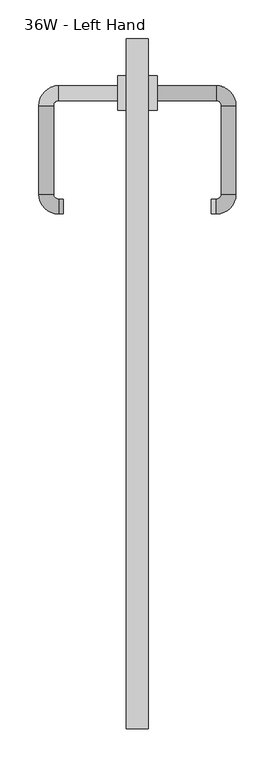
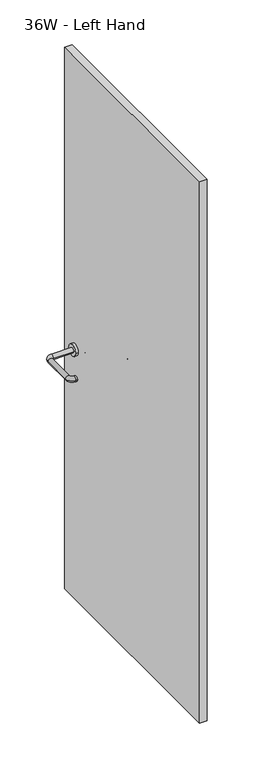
"""IFC4 building model written with IfcOpenShell, lengths in millimetres: furniture geometry, Steelcase - Montage - Door - Hinged Door : 36W - Left Hand."""

from ifc_helpers import new_model, si_unit, point, frame, frame_2d, origin, origin_with_axes, place, context, project, spatial, polyline, circle_curve, ellipse_curve, trimmed, segment, composite_curve, outline, extrude, source, transform, mapped, element, save
from ifc_brep_helpers import plane_surface, cylinder_surface, revolved_surface, advanced_brep


def furniture_36w_left_hand_b3355ba9(model_context):
    return source(origin(), model_context, "Body", "SolidModel", [
        extrude(outline(polyline([(41.2750004, 927.1000015), (41.2750004, 38.1000015), (12.7000004, 38.1000015), (12.7000004, 927.1000015), (41.2750004, 927.1000015)])), origin_with_axes(), (0.0, 0.0, 1.0), 2171.7),
        advanced_brep(
        [(52.3875004, 847.7250017, 1003.3), (52.3875004, 866.7750017, 1003.3), (128.5875062, 847.7250017, 1003.3), (128.5875062, 866.7750017, 1003.3), (153.9875009, 841.375007, 1003.3), (134.9375009, 841.375007, 1003.3), (134.9375009, 727.0749954, 1003.3), (153.9875009, 727.0749954, 1003.3), (128.5875062, 701.6750007, 1003.3), (128.5875062, 720.7250007, 1003.3), (122.2375004, 720.7250007, 1003.3), (122.2375004, 701.6750007, 1003.3)],
        [
            (0, 1, circle_curve(frame((52.3875004, 857.2500017, 1003.3), z_axis=(-1.0, 0.0, 0.0), x_axis=(0.0, 1.0, 0.0)), 9.525)),
            (1, 0, circle_curve(frame((52.3875004, 857.2500017, 1003.3), z_axis=(-1.0, 0.0, 0.0), x_axis=(0.0, 1.0, 0.0)), 9.525)),
            (0, 2),
            (2, 3, circle_curve(frame((128.5875062, 857.2500017, 1003.3), z_axis=(-1.0, 0.0, 0.0), x_axis=(0.0, 1.0, 0.0)), 9.525)),
            (3, 1),
            (3, 2, circle_curve(frame((128.5875062, 857.2500017, 1003.3), z_axis=(-1.0, 0.0, 0.0), x_axis=(0.0, 1.0, 0.0)), 9.525)),
            (4, 3, circle_curve(frame((128.5875062, 841.375007, 1003.3), z_axis=(0.0, 0.0, 1.0), x_axis=(0.0, 1.0, 0.0)), 25.3999947)),
            (2, 5, circle_curve(frame((128.5875062, 841.375007, 1003.3), z_axis=(0.0, 0.0, -1.0), x_axis=(0.0, 1.0, 0.0)), 6.3499947)),
            (5, 4, circle_curve(frame((144.4625009, 841.375007, 1003.3), z_axis=(0.0, 1.0, 0.0), x_axis=(1.0, 0.0, 0.0)), 9.525)),
            (4, 5, circle_curve(frame((144.4625009, 841.375007, 1003.3), z_axis=(0.0, 1.0, 0.0), x_axis=(1.0, 0.0, 0.0)), 9.525)),
            (5, 6),
            (6, 7, circle_curve(frame((144.4625009, 727.0749954, 1003.3), z_axis=(0.0, 1.0, 0.0), x_axis=(1.0, 0.0, 0.0)), 9.525)),
            (7, 4),
            (7, 6, circle_curve(frame((144.4625009, 727.0749954, 1003.3), z_axis=(0.0, 1.0, 0.0), x_axis=(1.0, 0.0, 0.0)), 9.525)),
            (8, 7, circle_curve(frame((128.5875062, 727.0749954, 1003.3), z_axis=(0.0, 0.0, 1.0), x_axis=(1.0, 0.0, 0.0)), 25.3999947)),
            (6, 9, circle_curve(frame((128.5875062, 727.0749954, 1003.3), z_axis=(0.0, 0.0, -1.0), x_axis=(1.0, 0.0, 0.0)), 6.3499947)),
            (9, 8, circle_curve(frame((128.5875062, 711.2000007, 1003.3), z_axis=(1.0, 0.0, 0.0), x_axis=(0.0, -1.0, 0.0)), 9.525)),
            (8, 9, circle_curve(frame((128.5875062, 711.2000007, 1003.3), z_axis=(1.0, 0.0, 0.0), x_axis=(0.0, -1.0, 0.0)), 9.525)),
            (10, 11, circle_curve(frame((122.2375004, 711.2000007, 1003.3), z_axis=(-1.0, 0.0, 0.0), x_axis=(0.0, -1.0, 0.0)), 9.525)),
            (11, 10, circle_curve(frame((122.2375004, 711.2000007, 1003.3), z_axis=(-1.0, 0.0, 0.0), x_axis=(0.0, -1.0, 0.0)), 9.525)),
            (9, 10),
            (11, 8),
        ],
        [
            plane_surface(frame((52.3875004, 857.2500017, 1003.3), z_axis=(-1.0, 0.0, 0.0), x_axis=(0.0, 0.0, 1.0))),
            cylinder_surface(frame((52.3875004, 857.2500017, 1003.3), z_axis=(-1.0, 0.0, 0.0), x_axis=(0.0, 1.0, 0.0)), 9.525),
            revolved_surface(trimmed(ellipse_curve(frame((128.5875062, 857.2500017, 1003.3), z_axis=(-1.0, 0.0, 0.0), x_axis=(0.0, 1.0, 0.0)), 9.525, 9.525), [point((128.5875062, 847.7250017, 1003.3))], [point((128.5875062, 866.7750017, 1003.3))], True, "CARTESIAN"), (128.5875062, 841.375007, 1003.3), (0.0, 0.0, -1.0)),
            revolved_surface(trimmed(ellipse_curve(frame((128.5875062, 857.2500017, 1003.3), z_axis=(-1.0, 0.0, 0.0), x_axis=(0.0, 1.0, 0.0)), 9.525, 9.525), [point((128.5875062, 866.7750017, 1003.3))], [point((128.5875062, 847.7250017, 1003.3))], True, "CARTESIAN"), (128.5875062, 841.375007, 1003.3), (0.0, 0.0, -1.0)),
            cylinder_surface(frame((144.4625009, 841.375007, 1003.3), z_axis=(0.0, 1.0, 0.0), x_axis=(1.0, 0.0, 0.0)), 9.525),
            revolved_surface(trimmed(ellipse_curve(frame((144.4625009, 727.0749954, 1003.3), z_axis=(0.0, 1.0, 0.0), x_axis=(1.0, 0.0, 0.0)), 9.525, 9.525), [point((134.9375009, 727.0749954, 1003.3))], [point((153.9875009, 727.0749954, 1003.3))], True, "CARTESIAN"), (128.5875062, 727.0749954, 1003.3), (0.0, 0.0, -1.0)),
            revolved_surface(trimmed(ellipse_curve(frame((144.4625009, 727.0749954, 1003.3), z_axis=(0.0, 1.0, 0.0), x_axis=(1.0, 0.0, 0.0)), 9.525, 9.525), [point((153.9875009, 727.0749954, 1003.3))], [point((134.9375009, 727.0749954, 1003.3))], True, "CARTESIAN"), (128.5875062, 727.0749954, 1003.3), (0.0, 0.0, -1.0)),
            plane_surface(frame((122.2375004, 711.2000007, 1003.3), z_axis=(-1.0, 0.0, 0.0), x_axis=(0.0, 0.0, 1.0))),
            cylinder_surface(frame((128.5875062, 711.2000007, 1003.3), z_axis=(1.0, 0.0, 0.0), x_axis=(0.0, -1.0, 0.0)), 9.525),
        ],
        [
            (0, [[1, 2]]),
            (1, [[-1, 3, 4, 5]]),
            (1, [[-2, -5, 6, -3]]),
            (2, [[7, -4, 8, 9]]),
            (3, [[-8, -6, -7, 10]]),
            (4, [[-9, 11, 12, 13]]),
            (4, [[-10, -13, 14, -11]]),
            (5, [[15, -12, 16, 17]]),
            (6, [[-16, -14, -15, 18]]),
            (7, [[19, 20]]),
            (8, [[-17, 21, -20, 22]]),
            (8, [[-18, -22, -19, -21]]),
        ],
    ),
        advanced_brep(
        [(1.5875004, 866.7750013, 1003.3), (1.5875004, 847.7250013, 1003.3), (-74.6125054, 866.7750013, 1003.3), (-74.6125054, 847.7250013, 1003.3), (-80.9624997, 841.375007, 1003.3), (-100.0124997, 841.375007, 1003.3), (-100.0124997, 727.0749954, 1003.3), (-80.9624997, 727.0749954, 1003.3), (-74.6125054, 720.7250012, 1003.3), (-74.6125054, 701.6750012, 1003.3), (-68.2624996, 701.6750012, 1003.3), (-68.2624996, 720.7250012, 1003.3)],
        [
            (0, 1, circle_curve(frame((1.5875004, 857.2500013, 1003.3), z_axis=(1.0, 0.0, 0.0), x_axis=(0.0, -1.0, 0.0)), 9.525)),
            (1, 0, circle_curve(frame((1.5875004, 857.2500013, 1003.3), z_axis=(1.0, 0.0, 0.0), x_axis=(0.0, -1.0, 0.0)), 9.525)),
            (0, 2),
            (2, 3, circle_curve(frame((-74.6125054, 857.2500013, 1003.3), z_axis=(1.0, 0.0, 0.0), x_axis=(0.0, -1.0, 0.0)), 9.525)),
            (3, 1),
            (3, 2, circle_curve(frame((-74.6125054, 857.2500013, 1003.3), z_axis=(1.0, 0.0, 0.0), x_axis=(0.0, -1.0, 0.0)), 9.525)),
            (4, 3, circle_curve(frame((-74.6125054, 841.375007, 1003.3), z_axis=(0.0, 0.0, -1.0), x_axis=(0.0, 1.0, 0.0)), 6.3499943)),
            (2, 5, circle_curve(frame((-74.6125054, 841.375007, 1003.3), z_axis=(0.0, 0.0, 1.0), x_axis=(0.0, 1.0, 0.0)), 25.3999943)),
            (5, 4, circle_curve(frame((-90.4874997, 841.375007, 1003.3), z_axis=(0.0, 1.0, 0.0), x_axis=(1.0, 0.0, 0.0)), 9.525)),
            (4, 5, circle_curve(frame((-90.4874997, 841.375007, 1003.3), z_axis=(0.0, 1.0, 0.0), x_axis=(1.0, 0.0, 0.0)), 9.525)),
            (5, 6),
            (6, 7, circle_curve(frame((-90.4874997, 727.0749954, 1003.3), z_axis=(0.0, 1.0, 0.0), x_axis=(1.0, 0.0, 0.0)), 9.525)),
            (7, 4),
            (7, 6, circle_curve(frame((-90.4874997, 727.0749954, 1003.3), z_axis=(0.0, 1.0, 0.0), x_axis=(1.0, 0.0, 0.0)), 9.525)),
            (8, 7, circle_curve(frame((-74.6125054, 727.0749954, 1003.3), z_axis=(0.0, 0.0, -1.0), x_axis=(-1.0, 0.0, 0.0)), 6.3499943)),
            (6, 9, circle_curve(frame((-74.6125054, 727.0749954, 1003.3), z_axis=(0.0, 0.0, 1.0), x_axis=(-1.0, 0.0, 0.0)), 25.3999943)),
            (9, 8, circle_curve(frame((-74.6125054, 711.2000012, 1003.3), z_axis=(-1.0, 0.0, 0.0), x_axis=(0.0, 1.0, 0.0)), 9.525)),
            (8, 9, circle_curve(frame((-74.6125054, 711.2000012, 1003.3), z_axis=(-1.0, 0.0, 0.0), x_axis=(0.0, 1.0, 0.0)), 9.525)),
            (10, 11, circle_curve(frame((-68.2624996, 711.2000012, 1003.3), z_axis=(1.0, 0.0, 0.0), x_axis=(0.0, 1.0, 0.0)), 9.525)),
            (11, 10, circle_curve(frame((-68.2624996, 711.2000012, 1003.3), z_axis=(1.0, 0.0, 0.0), x_axis=(0.0, 1.0, 0.0)), 9.525)),
            (9, 10),
            (11, 8),
        ],
        [
            plane_surface(frame((1.5875004, 857.2500013, 1003.3), z_axis=(1.0, 0.0, 0.0), x_axis=(0.0, 0.0, 1.0))),
            cylinder_surface(frame((1.5875004, 857.2500013, 1003.3), z_axis=(1.0, 0.0, 0.0), x_axis=(0.0, -1.0, 0.0)), 9.525),
            revolved_surface(trimmed(ellipse_curve(frame((-74.6125054, 857.2500013, 1003.3), z_axis=(1.0, 0.0, 0.0), x_axis=(0.0, -1.0, 0.0)), 9.525, 9.525), [point((-74.6125054, 866.7750013, 1003.3))], [point((-74.6125054, 847.7250013, 1003.3))], True, "CARTESIAN"), (-74.6125054, 841.375007, 1003.3), (0.0, 0.0, 1.0)),
            revolved_surface(trimmed(ellipse_curve(frame((-74.6125054, 857.2500013, 1003.3), z_axis=(1.0, 0.0, 0.0), x_axis=(0.0, -1.0, 0.0)), 9.525, 9.525), [point((-74.6125054, 847.7250013, 1003.3))], [point((-74.6125054, 866.7750013, 1003.3))], True, "CARTESIAN"), (-74.6125054, 841.375007, 1003.3), (0.0, 0.0, 1.0)),
            cylinder_surface(frame((-90.4874997, 841.375007, 1003.3), z_axis=(0.0, 1.0, 0.0), x_axis=(1.0, 0.0, 0.0)), 9.525),
            revolved_surface(trimmed(ellipse_curve(frame((-90.4874997, 727.0749954, 1003.3), z_axis=(0.0, 1.0, 0.0), x_axis=(1.0, 0.0, 0.0)), 9.525, 9.525), [point((-100.0124997, 727.0749954, 1003.3))], [point((-80.9624997, 727.0749954, 1003.3))], True, "CARTESIAN"), (-74.6125054, 727.0749954, 1003.3), (0.0, 0.0, 1.0)),
            revolved_surface(trimmed(ellipse_curve(frame((-90.4874997, 727.0749954, 1003.3), z_axis=(0.0, 1.0, 0.0), x_axis=(1.0, 0.0, 0.0)), 9.525, 9.525), [point((-80.9624997, 727.0749954, 1003.3))], [point((-100.0124997, 727.0749954, 1003.3))], True, "CARTESIAN"), (-74.6125054, 727.0749954, 1003.3), (0.0, 0.0, 1.0)),
            plane_surface(frame((-68.2624996, 711.2000012, 1003.3), z_axis=(1.0, 0.0, 0.0), x_axis=(0.0, 0.0, 1.0))),
            cylinder_surface(frame((-74.6125054, 711.2000012, 1003.3), z_axis=(-1.0, 0.0, 0.0), x_axis=(0.0, 1.0, 0.0)), 9.525),
        ],
        [
            (0, [[1, 2]]),
            (1, [[-1, 3, 4, 5]]),
            (1, [[-2, -5, 6, -3]]),
            (2, [[7, -4, 8, 9]]),
            (3, [[-8, -6, -7, 10]]),
            (4, [[-9, 11, 12, 13]]),
            (4, [[-10, -13, 14, -11]]),
            (5, [[15, -12, 16, 17]]),
            (6, [[-16, -14, -15, 18]]),
            (7, [[19, 20]]),
            (8, [[-17, 21, -20, 22]]),
            (8, [[-18, -22, -19, -21]]),
        ],
    ),
        extrude(outline(composite_curve([segment(trimmed(circle_curve(frame_2d((857.2500015, 1003.3)), 22.2250002), [point((835.0250012, 1003.3))], [point((879.4750017, 1003.3))], False, "CARTESIAN"), True, "CONTINUOUS"), segment(trimmed(circle_curve(frame_2d((857.2500015, 1003.3)), 22.2250002), [point((879.4750017, 1003.3))], [point((835.0250012, 1003.3))], False, "CARTESIAN"), True, "CONTINUOUS")], self_intersect=False)), frame((1.5240004, 0.0, 0.0), z_axis=(1.0, 0.0, 0.0), x_axis=(0.0, 1.0, 0.0)), (0.0, 0.0, 1.0), 11.176),
        extrude(outline(composite_curve([segment(trimmed(circle_curve(frame_2d((857.2500015, 1003.3)), 22.2250002), [point((835.0250012, 1003.3))], [point((879.4750017, 1003.3))], False, "CARTESIAN"), True, "CONTINUOUS"), segment(trimmed(circle_curve(frame_2d((857.2500015, 1003.3)), 22.2250002), [point((879.4750017, 1003.3))], [point((835.0250012, 1003.3))], False, "CARTESIAN"), True, "CONTINUOUS")], self_intersect=False)), frame((41.2750004, 0.0, 0.0), z_axis=(1.0, 0.0, 0.0), x_axis=(0.0, 1.0, 0.0)), (0.0, 0.0, 1.0), 11.176),
    ])


if __name__ == "__main__":
    model = new_model("IFC4")
    model_context = context("Model", 3, world=origin())
    ifc_project = project(units=[si_unit("LENGTHUNIT", "METRE", prefix="MILLI")], contexts=[model_context])
    site = spatial("IfcSite", under=ifc_project)
    building = spatial("IfcBuilding", under=site)
    placement = place(None, origin())
    furniture_36w_left_hand_shape = furniture_36w_left_hand_b3355ba9(model_context)
    element("IfcFurniture", 1, ObjectType="Steelcase - Montage - Door - Hinged Door : 36W - Left Hand", at=placement, inside=building, context=model_context, shape_type="MappedRepresentation", body=[
        mapped(furniture_36w_left_hand_shape, transform((0.0, 0.0, 0.0), x_axis=(1.0, 0.0, 0.0), y_axis=(0.0, 1.0, 0.0), z_axis=(0.0, 0.0, 1.0))),
    ])
    save(model, "model.ifc")
